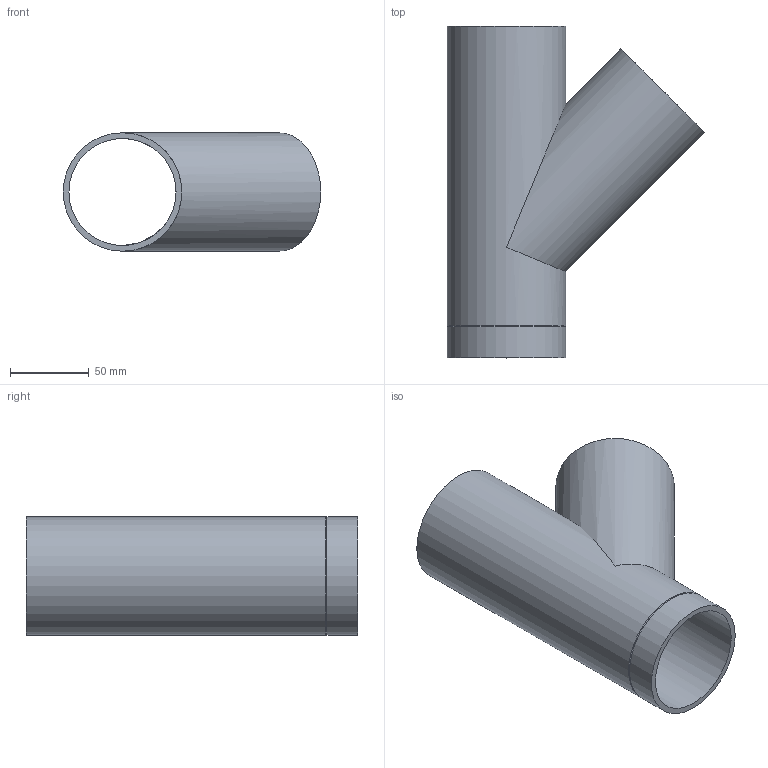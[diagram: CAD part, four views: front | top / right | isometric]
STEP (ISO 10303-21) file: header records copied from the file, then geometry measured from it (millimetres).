
FILE_DESCRIPTION(/* description */ (''),/* implementation_level */ '2;1');
FILE_NAME(/* name */ 'Z:\Geberit\Export\Export18\Abzweig Gerade_Ipart\stp\307074.stp',/* time_stamp */ '2014-08-26T21:51:02+02:00',/* author */ ('ML'),/* organization */ (''),/* preprocessor_version */ 'ST-DEVELOPER v15.2',/* originating_system */ 'Autodesk Inventor 2014',/* authorisation */ '');
FILE_SCHEMA (('AUTOMOTIVE_DESIGN { 1 0 10303 214 3 1 1 }'));
Length unit declared in the file: millimetre
Products named in the file (1): 307074
Bounding box: 163.01 x 210 x 75 mm (x, y, z)
Volume: 230601 mm3; surface area: 130727.6 mm2
Topology: 1 solids, 1 shells, 10 faces, 26 edges, 18 vertices
Faces by surface type: cylinder 5, plane 3, cone 2
Full cylindrical faces by diameter (mm): 67.8 x2, 75 x3
Entity records: 263 total; most frequent: DIRECTION 48, CARTESIAN_POINT 37, ORIENTED_EDGE 26, AXIS2_PLACEMENT_3D 24, EDGE_LOOP 22, FACE_BOUND 17, VERTEX_POINT 13, EDGE_CURVE 13
